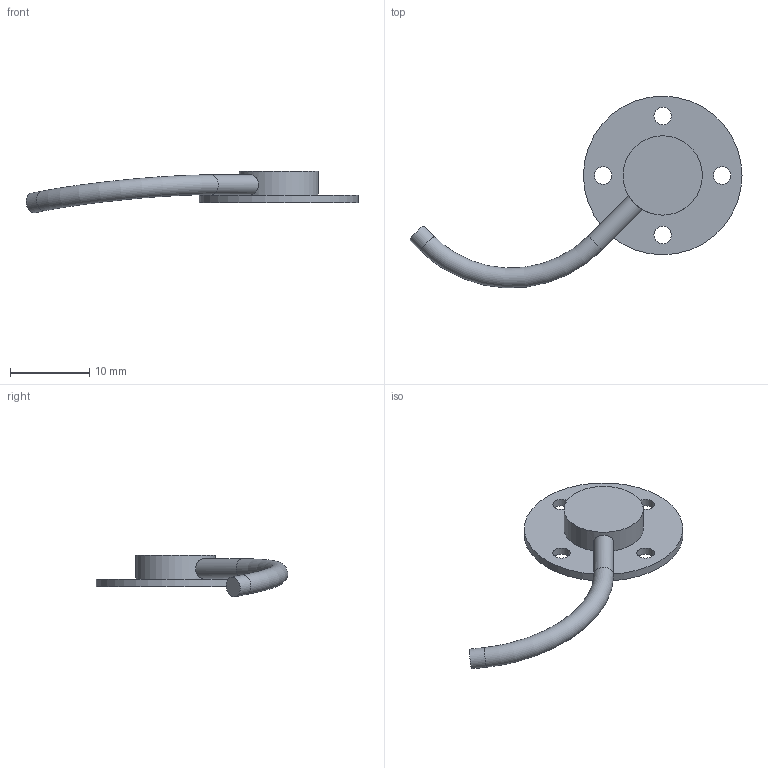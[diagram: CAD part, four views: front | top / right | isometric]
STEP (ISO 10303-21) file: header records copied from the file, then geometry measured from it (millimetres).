
FILE_DESCRIPTION(/* description */ (''),/* implementation_level */ '2;1');
FILE_NAME(/* name */ 'F:\daten\PRODUKTE\TELEMETR\A\Mechanik\CAD\5A\kunde\Antenne_5A_kunde.stp',/* time_stamp */ '2019-09-04T12:55:56+02:00',/* author */ ('dschaefer'),/* organization */ (''),/* preprocessor_version */ 'ST-DEVELOPER v16.5',/* originating_system */ 'Autodesk Inventor 2017',/* authorisation */ '');
FILE_SCHEMA (('AUTOMOTIVE_DESIGN { 1 0 10303 214 3 1 1 }'));
Length unit declared in the file: millimetre
Products named in the file (1): Antenne_5A_kunde
Bounding box: 41.85 x 24.17 x 5.24 mm (x, y, z)
Volume: 694.3 mm3; surface area: 1038.5 mm2
Topology: 1 solids, 1 shells, 13 faces, 31 edges, 22 vertices
Faces by surface type: cylinder 8, plane 4, torus 1
Full cylindrical faces by diameter (mm): 2.2 x4, 2.5 x2, 10 x1, 20 x1
Entity records: 400 total; most frequent: CARTESIAN_POINT 83, DIRECTION 58, ORIENTED_EDGE 34, EDGE_LOOP 32, AXIS2_PLACEMENT_3D 29, FACE_BOUND 19, VERTEX_POINT 17, EDGE_CURVE 17
